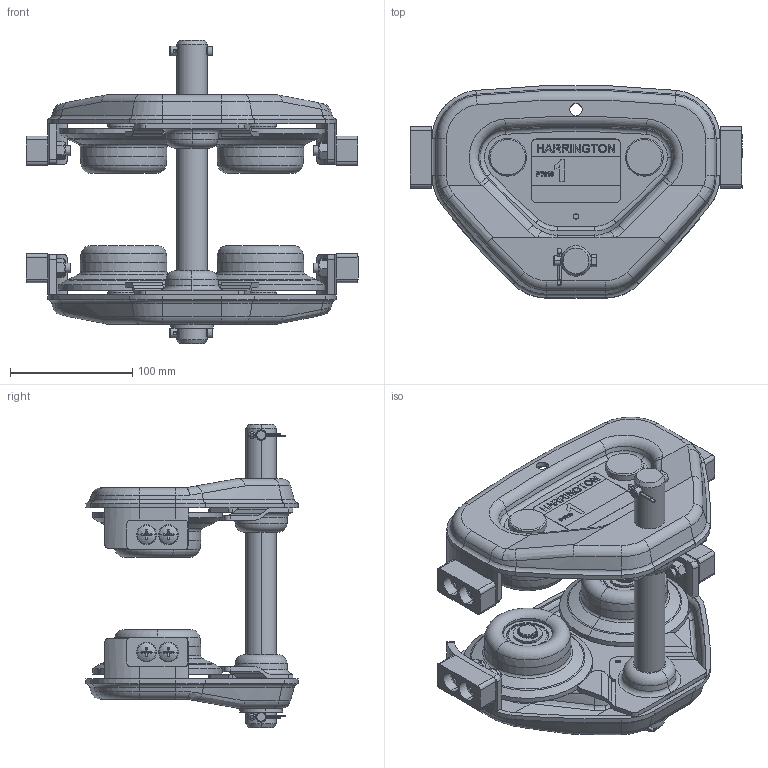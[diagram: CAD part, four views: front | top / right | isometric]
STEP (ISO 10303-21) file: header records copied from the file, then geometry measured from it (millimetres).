
FILE_DESCRIPTION (( 'STEP AP214' ), '1' );
FILE_NAME ('PTS2010.STEP', '2026-08-17T13:05:42', ( '' ), ( '' ), 'SwSTEP 2.0', 'SolidWorks 2026', '' );
FILE_SCHEMA (( 'AUTOMOTIVE_DESIGN' ));
Length unit declared in the file: inch
Products named in the file (22): T7G117010; T6G5102010; T7GA0105112; T6GA0109113; T7G115010; M8 NARROW FLAT WASHER_B18.22M - Plain washer, 8 mm, narrow; 9009423_9009423; T6GA0109103; T7GA0109141; PTS2010; T6G800010P; M8 LOCK NUT_M8 LOCK NUT; T6G156010; T6GA0109112; 6302Z BEARING; M8 X 30 MACHINE SCREW_M8 X 30 MACHINE SCREW; T7GA0109142; T7AB101010; 9047115_9047115; T6GA0109101; MS104010; T7AB0109101
Assembly tree (40 placements, depth 3):
  PTS2010
    T7GA0105112  x2
      T6GA0109112
      T7GA0109141
      T7GA0109142
      T6GA0109113
      T6GA0109103
    T6G5102010  x4
      T6GA0109101
      6302Z BEARING
    MS104010  x4
    9047115_9047115  x4
    T6G800010P
    T7G115010
    T7G117010
    T6G156010  x2
    9009423_9009423  x2
    T7AB101010  x4
      T7AB0109101
      M8 NARROW FLAT WASHER_B18.22M - Plain washer, 8 mm, narrow
      M8 X 30 MACHINE SCREW_M8 X 30 MACHINE SCREW
      M8 LOCK NUT_M8 LOCK NUT
Bounding box: 272 x 173.77 x 249 mm (x, y, z)
Volume: 946940.2 mm3; surface area: 498840.4 mm2
Topology: 59 solids, 75 shells, 3097 faces, 7839 edges, 5083 vertices
Faces by surface type: plane 1635, cylinder 742, torus 288, cone 272, bspline 144, sphere 16
Entity records: 33967 total; most frequent: CARTESIAN_POINT 10006, ORIENTED_EDGE 4876, DIRECTION 4586, EDGE_CURVE 2440, AXIS2_PLACEMENT_3D 1806, VERTEX_POINT 1618, EDGE_LOOP 1044, VECTOR 974
